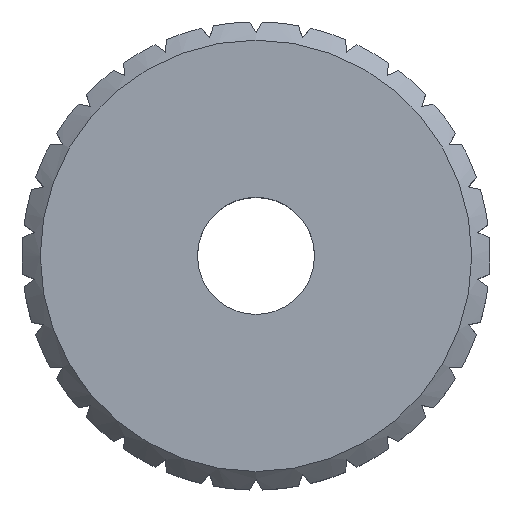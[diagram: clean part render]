
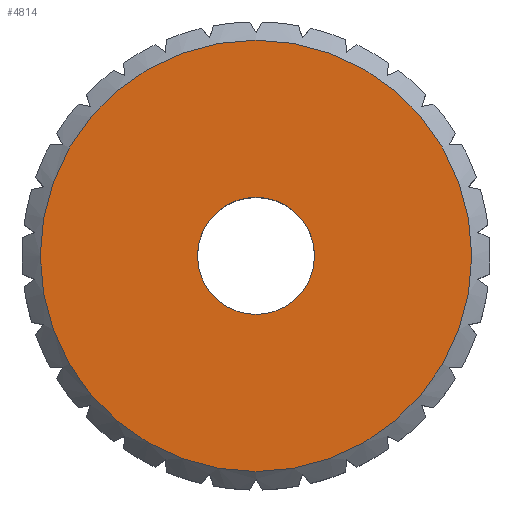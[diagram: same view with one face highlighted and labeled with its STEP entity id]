
A CAD part, top view. The second image highlights one B-rep face of the part: STEP entity #4814.
In plain terms, the highlighted planar face has unit normal (0, 0, 1).
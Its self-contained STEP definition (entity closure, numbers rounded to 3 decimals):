
#4737=CARTESIAN_POINT('',(-3.202,319.,50.514));
#4738=VERTEX_POINT('',#4737);
#4753=CARTESIAN_POINT('',(0.,319.,50.514));
#4754=DIRECTION('',(-0.,-0.,1.));
#4755=DIRECTION('',(-1.,0.,0.));
#4756=AXIS2_PLACEMENT_3D('',#4753,#4754,#4755);
#4757=CIRCLE('',#4756,3.202);
#4758=EDGE_CURVE('',#4738,#4738,#4757,.T.);
#4795=CARTESIAN_POINT('',(0.,0.,50.514));
#4796=DIRECTION('',(0.,0.,1.));
#4797=DIRECTION('',(0.,1.,0.));
#4798=AXIS2_PLACEMENT_3D('',#4795,#4796,#4797);
#4799=PLANE('',#4798);
#4800=CARTESIAN_POINT('',(-11.8,319.,50.514));
#4801=VERTEX_POINT('',#4800);
#4802=CARTESIAN_POINT('',(0.,319.,50.514));
#4803=DIRECTION('',(-0.,-0.,1.));
#4804=DIRECTION('',(-1.,0.,0.));
#4805=AXIS2_PLACEMENT_3D('',#4802,#4803,#4804);
#4806=CIRCLE('',#4805,11.8);
#4807=EDGE_CURVE('',#4801,#4801,#4806,.T.);
#4808=ORIENTED_EDGE('',*,*,#4807,.T.);
#4809=EDGE_LOOP('',(#4808));
#4810=FACE_BOUND('',#4809,.T.);
#4811=ORIENTED_EDGE('',*,*,#4758,.F.);
#4812=EDGE_LOOP('',(#4811));
#4813=FACE_BOUND('',#4812,.T.);
#4814=ADVANCED_FACE('',(#4810,#4813),#4799,.T.);
